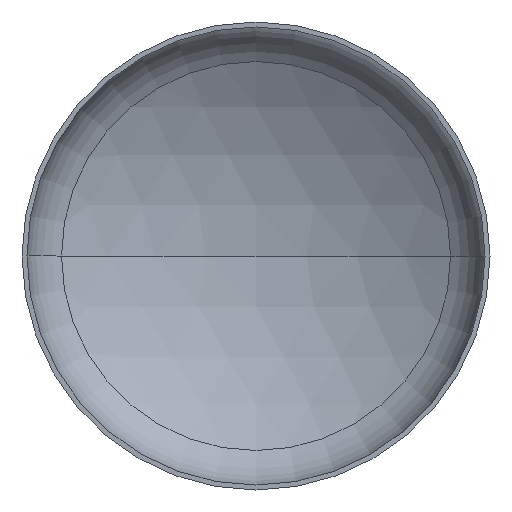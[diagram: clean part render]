
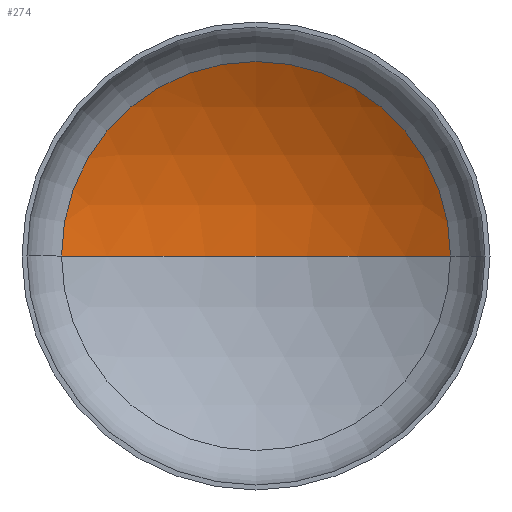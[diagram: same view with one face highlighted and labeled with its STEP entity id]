
A CAD part, front view. The second image highlights one B-rep face of the part: STEP entity #274.
In plain terms, the highlighted spherical face has radius 4400 mm.
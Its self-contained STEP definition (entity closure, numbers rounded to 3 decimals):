
#3 = VERTEX_POINT ( 'NONE', #134 ) ;
#25 = VERTEX_POINT ( 'NONE', #217 ) ;
#29 = DIRECTION ( 'NONE',  ( 1., 0., 0. ) ) ;
#50 = AXIS2_PLACEMENT_3D ( 'NONE', #179, #205, #400 ) ;
#60 = ORIENTED_EDGE ( 'NONE', *, *, #218, .T. ) ;
#61 = VERTEX_POINT ( 'NONE', #165 ) ;
#70 = ORIENTED_EDGE ( 'NONE', *, *, #221, .T. ) ;
#120 = EDGE_LOOP ( 'NONE', ( #132, #70, #60 ) ) ;
#132 = ORIENTED_EDGE ( 'NONE', *, *, #223, .F. ) ;
#133 = AXIS2_PLACEMENT_3D ( 'NONE', #203, #368, #231 ) ;
#134 = CARTESIAN_POINT ( 'NONE',  ( 2286.02, 842.002, 0. ) ) ;
#139 = AXIS2_PLACEMENT_3D ( 'NONE', #302, #146, #325 ) ;
#141 = CIRCLE ( 'NONE', #133, 4400. ) ;
#142 = AXIS2_PLACEMENT_3D ( 'NONE', #395, #258, #29 ) ;
#146 = DIRECTION ( 'NONE',  ( 0., 0., -1. ) ) ;
#165 = CARTESIAN_POINT ( 'NONE',  ( 0., 1482.465, 0. ) ) ;
#179 = CARTESIAN_POINT ( 'NONE',  ( 0., -2917.535, 0. ) ) ;
#203 = CARTESIAN_POINT ( 'NONE',  ( 0., -2917.535, 0. ) ) ;
#205 = DIRECTION ( 'NONE',  ( 0., 0., -1. ) ) ;
#216 = CIRCLE ( 'NONE', #142, 2286.02 ) ;
#217 = CARTESIAN_POINT ( 'NONE',  ( -2286.02, 842.002, 0. ) ) ;
#218 = EDGE_CURVE ( 'NONE', #3, #25, #216, .T. ) ;
#221 = EDGE_CURVE ( 'NONE', #61, #3, #401, .T. ) ;
#223 = EDGE_CURVE ( 'NONE', #61, #25, #141, .T. ) ;
#231 = DIRECTION ( 'NONE',  ( 1., 0., 0. ) ) ;
#258 = DIRECTION ( 'NONE',  ( 0., -1., 0. ) ) ;
#274 = ADVANCED_FACE ( 'NONE', ( #386 ), #317, .F. ) ;
#302 = CARTESIAN_POINT ( 'NONE',  ( 0., -2917.535, 0. ) ) ;
#317 = SPHERICAL_SURFACE ( 'NONE', #50, 4400. ) ;
#325 = DIRECTION ( 'NONE',  ( -1., 0., 0. ) ) ;
#368 = DIRECTION ( 'NONE',  ( 0., 0., 1. ) ) ;
#386 = FACE_OUTER_BOUND ( 'NONE', #120, .T. ) ;
#395 = CARTESIAN_POINT ( 'NONE',  ( 0., 842.002, 0. ) ) ;
#400 = DIRECTION ( 'NONE',  ( -1., 0., 0. ) ) ;
#401 = CIRCLE ( 'NONE', #139, 4400. ) ;
